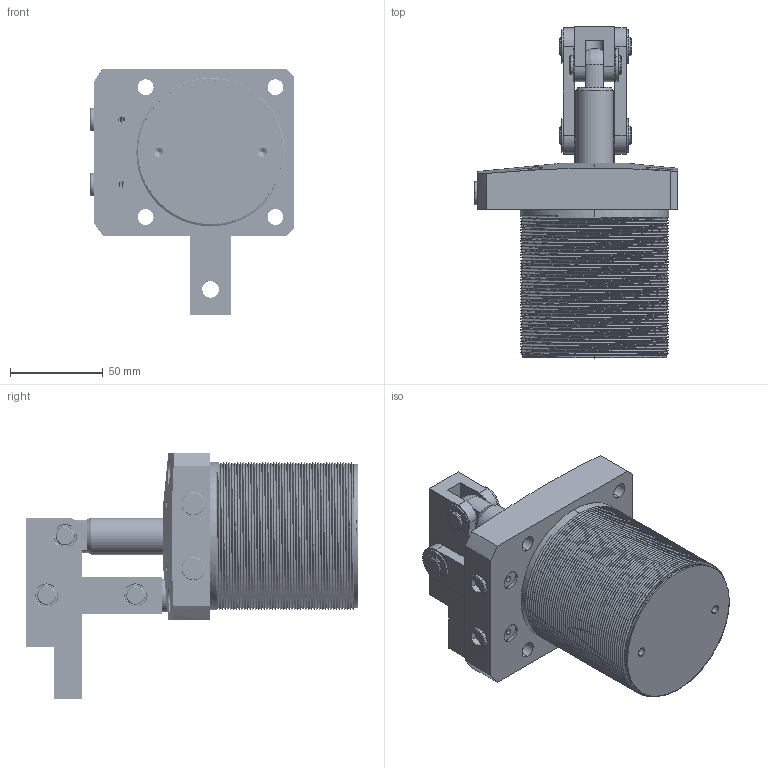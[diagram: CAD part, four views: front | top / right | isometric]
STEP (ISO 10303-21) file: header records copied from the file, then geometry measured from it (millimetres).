
FILE_DESCRIPTION (( 'STEP AP214' ), '1' );
FILE_NAME ('LHC01D-63L.STEP', '2019-04-20T01:08:12', ( '' ), ( '' ), 'SwSTEP 2.0', 'SolidWorks 2016', '' );
FILE_SCHEMA (( 'AUTOMOTIVE_DESIGN' ));
Length unit declared in the file: millimetre
Products named in the file (12): CPLCU-63-05_1; CPLCU-63-04_1; CPLCU-63-03_1; CPLCU-63-02_1; CPLCU-63-01_1; CPLCU-50-08_4; LHC01D-63-01_1; LHC01D-63L; LHC01D63活塞杆; 黑芛_14; M4ningjin_9; LHC01D-63-07_1
Assembly tree (25 placements, depth 2):
  LHC01D-63L
    LHC01D-63-01_1
    CPLCU-50-08_4  x6
    CPLCU-63-01_1
    CPLCU-63-02_1  x2
    CPLCU-63-03_1
    CPLCU-63-04_1  x2
    CPLCU-63-05_1
    LHC01D-63-07_1  x6
    M4ningjin_9  x2
    黑芛_14  x2
    LHC01D63活塞杆
Bounding box: 110 x 179 x 133 mm (x, y, z)
Volume: 589573 mm3; surface area: 141632.8 mm2
Topology: 27 solids, 30 shells, 1573 faces, 5355 edges, 3863 vertices
Faces by surface type: cylinder 937, bspline 248, plane 205, cone 179, torus 4
Entity records: 205938 total; most frequent: CARTESIAN_POINT 172816, ORIENTED_EDGE 9142, EDGE_CURVE 4571, DIRECTION 3513, VERTEX_POINT 3359, B_SPLINE_CURVE_WITH_KNOTS 3354, EDGE_LOOP 1330, AXIS2_PLACEMENT_3D 1284
